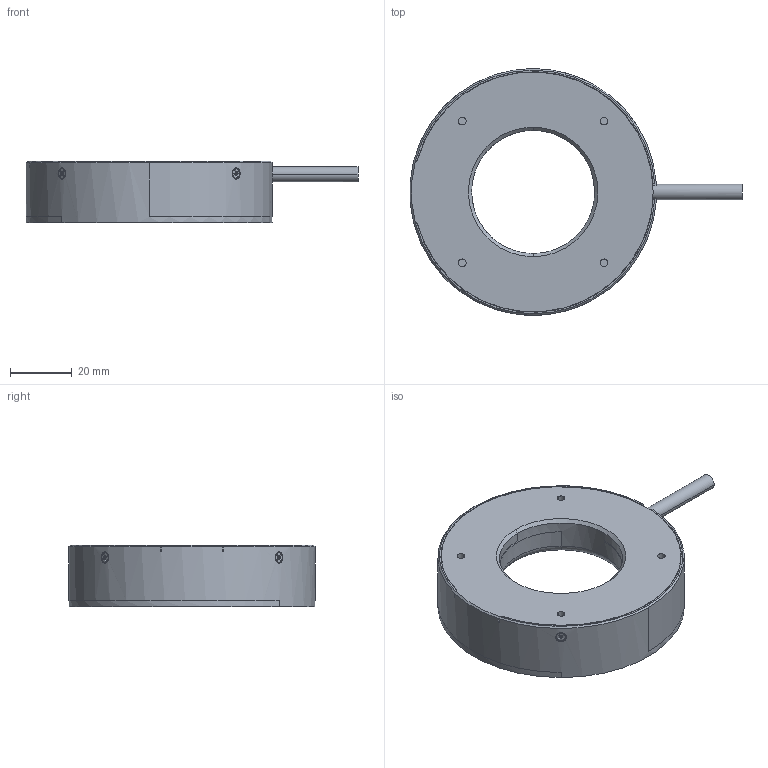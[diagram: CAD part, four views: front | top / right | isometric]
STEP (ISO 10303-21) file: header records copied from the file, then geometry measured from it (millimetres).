
FILE_DESCRIPTION((''),'2;1');
FILE_NAME('MV-LRDS-H-80-60-W','2022-09-02T14:18:42',('qiaoxuan5'),(''),'CREO PARAMETRIC BY PTC INC, 2020044','CREO PARAMETRIC BY PTC INC, 2020044','');
FILE_SCHEMA(('CONFIG_CONTROL_DESIGN'));
Length unit declared in the file: metre
Products named in the file (1): MV-LRDS-H-80-60-W
Bounding box: 107.67 x 80 x 20 mm (x, y, z)
Volume: 66561.6 mm3; surface area: 16356.4 mm2
Topology: 1 solids, 22 shells, 484 faces, 1153 edges, 713 vertices
Faces by surface type: plane 280, cylinder 136, cone 64, torus 4
Entity records: 14401 total; most frequent: CARTESIAN_POINT 3237, DIRECTION 2292, ORIENTED_EDGE 2282, EDGE_CURVE 1141, AXIS2_PLACEMENT_3D 781, VECTOR 730, LINE 730, VERTEX_POINT 713
